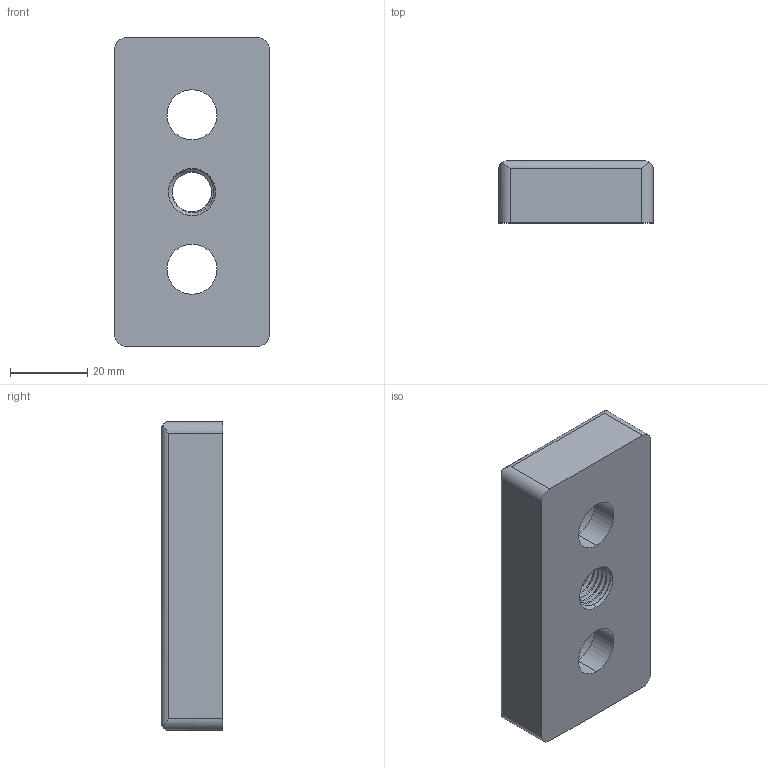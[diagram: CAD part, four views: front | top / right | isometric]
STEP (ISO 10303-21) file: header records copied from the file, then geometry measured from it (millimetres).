
FILE_DESCRIPTION (( 'STEP AP203' ), '1' );
FILE_NAME ('503027_Transport- u. Fußplatte ZN 40x80 Nut10 M12 vz.step', '2022-08-02T06:32:24', ( '' ), ( '' ), 'SwSTEP 2.0', 'SolidWorks 2021', '' );
FILE_SCHEMA (( 'CONFIG_CONTROL_DESIGN' ));
Length unit declared in the file: millimetre
Products named in the file (1): 503027_Transport- u. Fußplatte ZN 40x80 Nut10 M12 vz
Bounding box: 40 x 16 x 80 mm (x, y, z)
Volume: 41853.1 mm3; surface area: 11771.8 mm2
Topology: 1 solids, 1 shells, 52 faces, 143 edges, 95 vertices
Faces by surface type: cylinder 36, plane 8, cone 5, bspline 3
Entity records: 3618 total; most frequent: CARTESIAN_POINT 2359, ORIENTED_EDGE 286, DIRECTION 206, EDGE_CURVE 143, VERTEX_POINT 95, AXIS2_PLACEMENT_3D 77, EDGE_LOOP 60, FACE_OUTER_BOUND 52
